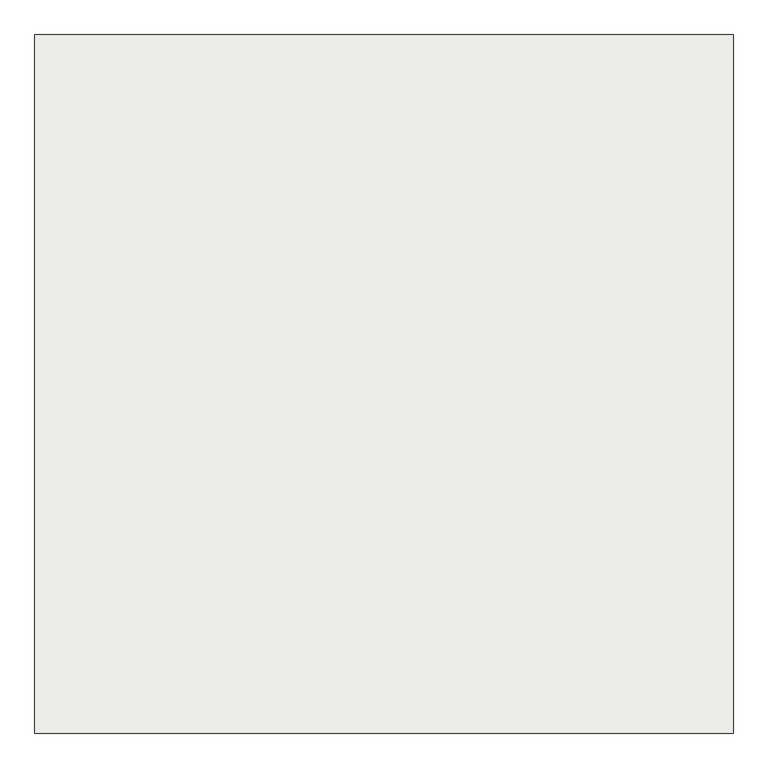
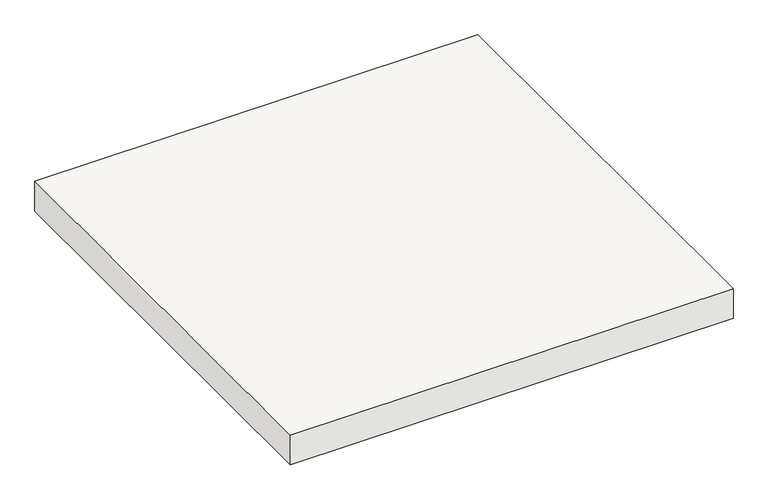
"""IFC4 building model written with IfcOpenShell, lengths in millimetres: roof geometry, Basic Roof:27_RO_dakplaat_sandwich_PIR_106_20-3-80-3:77055 : Basic Roof:27_RO_dakplaat_sandwich_PIR_106_20-3-80-3:77055."""

import ifcopenshell
import ifcopenshell.guid

model = None  # the IFC model being written
_history = None  # IfcOwnerHistory: only IFC2X3 demands one
_inside = {}  # id of a spatial element -> (the spatial element, [elements in it])
_under = {}  # id of a project, library or spatial element -> (it, [spatial elements below it])
_declared = {}  # id of a project -> (the project, [libraries it declares])
_typed = {}  # id of a type object -> (the type object, [elements of that type])
_made_of = {}  # id of a material, layer set ... -> (it, [elements and type objects made of it])


def new_model(schema):
    """Start an empty IFC model of exactly this schema.

    Asked for "IFC4X3", IfcOpenShell would pick the latest addendum, in which some entities
    have other attributes; the version numbers below select the first issue.
    IFC2X3 requires an IfcOwnerHistory on every rooted entity: one is made here for all.
    """
    global model, _history
    if schema == "IFC4X3":
        model = ifcopenshell.file(schema_version=(4, 3, 0, 0))
    else:
        model = ifcopenshell.file(schema=schema)
    _inside.clear()
    _under.clear()
    _declared.clear()
    _typed.clear()
    _made_of.clear()
    _history = None
    if model.schema == "IFC2X3":
        org = make("IfcOrganization", Name="unknown")
        user = make(
            "IfcPersonAndOrganization",
            ThePerson=make("IfcPerson", FamilyName="unknown"),
            TheOrganization=org,
        )
        app = make(
            "IfcApplication",
            ApplicationDeveloper=org,
            Version="unknown",
            ApplicationFullName="unknown",
            ApplicationIdentifier="unknown",
        )
        _history = make(
            "IfcOwnerHistory",
            OwningUser=user,
            OwningApplication=app,
            ChangeAction="ADDED",
            CreationDate=0,
        )
    return model


def make(cls, **values):
    """One entity of the class cls with the attributes given. An attribute that is None is left unset."""
    return model.create_entity(
        cls, **{name: value for name, value in values.items() if value is not None}
    )


def rooted(cls, **values):
    """An entity with a GlobalId (a new one), such as an element, a storey or a relation."""
    return make(cls, GlobalId=ifcopenshell.guid.new(), OwnerHistory=_history, **values)


def si_unit(unit_type, name, prefix=None):
    """IfcSIUnit, for example si_unit("LENGTHUNIT", "METRE", prefix="MILLI")."""
    return make("IfcSIUnit", UnitType=unit_type, Prefix=prefix, Name=name)


def assignment(units):
    """IfcUnitAssignment: the units of a project."""
    return None if units is None else make("IfcUnitAssignment", Units=units)


def point(xyz):
    """IfcCartesianPoint."""
    return None if xyz is None else make("IfcCartesianPoint", Coordinates=xyz)


def direction(xyz):
    """IfcDirection."""
    return None if xyz is None else make("IfcDirection", DirectionRatios=xyz)


def frame(location, z_axis=None, x_axis=None):
    """IfcAxis2Placement3D, a coordinate frame: its origin and axes. An axis left out is left unset."""
    return make(
        "IfcAxis2Placement3D",
        Location=point(location),
        Axis=direction(z_axis),
        RefDirection=direction(x_axis),
    )


def origin():
    """The frame at (0, 0, 0) with its axes left unset."""
    return frame((0.0, 0.0, 0.0))


def origin_with_axes():
    """The frame at (0, 0, 0) with the z axis (0, 0, 1) and the x axis (1, 0, 0) written out."""
    return frame((0.0, 0.0, 0.0), z_axis=(0.0, 0.0, 1.0), x_axis=(1.0, 0.0, 0.0))


def place(relative_to, where):
    """IfcLocalPlacement: puts the frame where relative to a parent placement (None: the world)."""
    return make(
        "IfcLocalPlacement", PlacementRelTo=relative_to, RelativePlacement=where
    )


def context(
    kind, dimensions, precision=None, world=None, true_north=None, identifier=None
):
    """IfcGeometricRepresentationContext, for example the 3D "Model" context."""
    return make(
        "IfcGeometricRepresentationContext",
        ContextIdentifier=identifier,
        ContextType=kind,
        CoordinateSpaceDimension=dimensions,
        Precision=precision,
        WorldCoordinateSystem=world,
        TrueNorth=true_north,
    )


def project(units=None, contexts=None):
    """IfcProject with its units and contexts."""
    return rooted(
        "IfcProject",
        Name="project",
        RepresentationContexts=contexts,
        UnitsInContext=assignment(units),
    )


def spatial(cls, under=None, at=None, **own):
    """A site, building, storey or space (cls), placed at a placement, below another one or the project."""
    s = rooted(cls, ObjectPlacement=at, **own)
    if under is not None:
        _under.setdefault(under.id(), (under, []))[1].append(s)
    return s


def polyline(points):
    """IfcPolyline through the points."""
    return make("IfcPolyline", Points=[point(p) for p in points])


def outline(outer, holes=None, kind="AREA"):
    """IfcArbitraryClosedProfileDef: a profile drawn as a closed curve; with holes, ...WithVoids."""
    if holes is None:
        return make("IfcArbitraryClosedProfileDef", ProfileType=kind, OuterCurve=outer)
    return make(
        "IfcArbitraryProfileDefWithVoids",
        ProfileType=kind,
        OuterCurve=outer,
        InnerCurves=holes,
    )


def extrude(swept, where, along, depth):
    """IfcExtrudedAreaSolid: the profile swept, set in the frame where, extruded along a direction by depth."""
    return make(
        "IfcExtrudedAreaSolid",
        SweptArea=swept,
        Position=where,
        ExtrudedDirection=direction(along),
        Depth=depth,
    )


def shape(context_of_items, identifier, shape_type, items):
    """IfcShapeRepresentation: the items that make up one representation, for example the "Body"."""
    return make(
        "IfcShapeRepresentation",
        ContextOfItems=context_of_items,
        RepresentationIdentifier=identifier,
        RepresentationType=shape_type,
        Items=items,
    )


def source(mapping_origin, context_of_items, identifier, shape_type, items):
    """IfcRepresentationMap: a shape defined once, which mapped items show again and again."""
    return make(
        "IfcRepresentationMap",
        MappingOrigin=mapping_origin,
        MappedRepresentation=shape(context_of_items, identifier, shape_type, items),
    )


def transform(
    local_origin,
    x_axis=None,
    y_axis=None,
    z_axis=None,
    scale=None,
    scale2=None,
    scale3=None,
    uniform=True,
):
    """IfcCartesianTransformationOperator3D, or its non-uniform kind. x_axis, y_axis, z_axis: its Axis1, 2, 3."""
    if uniform:
        return make(
            "IfcCartesianTransformationOperator3D",
            Axis1=direction(x_axis),
            Axis2=direction(y_axis),
            LocalOrigin=point(local_origin),
            Scale=scale,
            Axis3=direction(z_axis),
        )
    return make(
        "IfcCartesianTransformationOperator3DnonUniform",
        Axis1=direction(x_axis),
        Axis2=direction(y_axis),
        LocalOrigin=point(local_origin),
        Scale=scale,
        Axis3=direction(z_axis),
        Scale2=scale2,
        Scale3=scale3,
    )


def mapped(mapping_source, mapping_target):
    """IfcMappedItem: shows the shape of a source again, moved by a transform."""
    return make(
        "IfcMappedItem", MappingSource=mapping_source, MappingTarget=mapping_target
    )


def made_of(thing, what):
    """Note that an element or type object is made of a material, layer set ...; save() writes the relation."""
    if what is not None:
        _made_of.setdefault(what.id(), (what, []))[1].append(thing)
    return thing


def element(
    cls,
    number,
    at=None,
    inside=None,
    cuts=None,
    type_object=None,
    material=None,
    context=None,
    identifier="Body",
    shape_type=None,
    held_by="IfcProductDefinitionShape",
    body=None,
    shapes=None,
    **own,
):
    """One element of the class cls, such as IfcWall. Its Tag is "e" and its number.

    at: its placement. inside: the storey or other place that contains it. cuts: it is an
    opening in that element (IfcRelVoidsElement). A single representation is given by context,
    identifier, shape_type and body (its items); several are given by shapes. held_by: the class
    of the entity that holds the representations. save() writes the other relations.
    """
    e = rooted(cls, Tag="e%d" % number, ObjectPlacement=at, **own)
    if body is not None:
        shapes = [shape(context, identifier, shape_type, body)]
    if shapes is not None:
        e.Representation = make(held_by, Representations=shapes)
    if inside is not None:
        _inside.setdefault(inside.id(), (inside, []))[1].append(e)
    if cuts is not None:
        rooted(
            "IfcRelVoidsElement", RelatingBuildingElement=cuts, RelatedOpeningElement=e
        )
    if type_object is not None:
        _typed.setdefault(type_object.id(), (type_object, []))[1].append(e)
    return made_of(e, material)


def aggregate(whole, parts):
    """IfcRelAggregates: a whole, such as a stair, and the parts it consists of."""
    return rooted("IfcRelAggregates", RelatingObject=whole, RelatedObjects=parts)


def save(model, path):
    """Write the relations noted so far, then the file.

    IfcRelAggregates (storeys below a building ...), IfcRelContainedInSpatialStructure (elements
    in a storey), IfcRelDefinesByType, IfcRelAssociatesMaterial and IfcRelDeclares: one each for
    every whole, place, type object, material and project.
    """
    for whole, parts in _under.values():
        aggregate(whole, parts)
    for where, things in _inside.values():
        rooted(
            "IfcRelContainedInSpatialStructure",
            RelatedElements=things,
            RelatingStructure=where,
        )
    for kind, things in _typed.values():
        rooted("IfcRelDefinesByType", RelatedObjects=things, RelatingType=kind)
    for what, things in _made_of.values():
        rooted("IfcRelAssociatesMaterial", RelatedObjects=things, RelatingMaterial=what)
    for by, libraries in _declared.values():
        rooted("IfcRelDeclares", RelatingContext=by, RelatedDefinitions=libraries)
    model.write(path)


def roof_e8020cba(model_context):
    return source(origin(), model_context, "Body", "SweptSolid", [
        extrude(outline(polyline([(36193.347385, -11415.0), (34693.347385, -11415.0), (34693.347385, -9915.0), (36193.347385, -9915.0), (36193.347385, -11415.0)])), origin_with_axes(), (0.0, 0.0, 1.0), 106.0),
    ])


if __name__ == "__main__":
    model = new_model("IFC4")
    model_context = context("Model", 3, world=origin())
    ifc_project = project(units=[si_unit("LENGTHUNIT", "METRE", prefix="MILLI")], contexts=[model_context])
    site = spatial("IfcSite", under=ifc_project)
    building = spatial("IfcBuilding", under=site)
    placement = place(None, origin())
    roof_shape = roof_e8020cba(model_context)
    element("IfcRoof", 1, ObjectType="Basic Roof:27_RO_dakplaat_sandwich_PIR_106_20-3-80-3:77055 : Basic Roof:27_RO_dakplaat_sandwich_PIR_106_20-3-80-3:77055", at=placement, inside=building, context=model_context, shape_type="MappedRepresentation", body=[
        mapped(roof_shape, transform((0.0, 0.0, 0.0), x_axis=(1.0, 0.0, 0.0), y_axis=(0.0, 1.0, 0.0), z_axis=(0.0, 0.0, 1.0))),
    ])
    save(model, "model.ifc")
